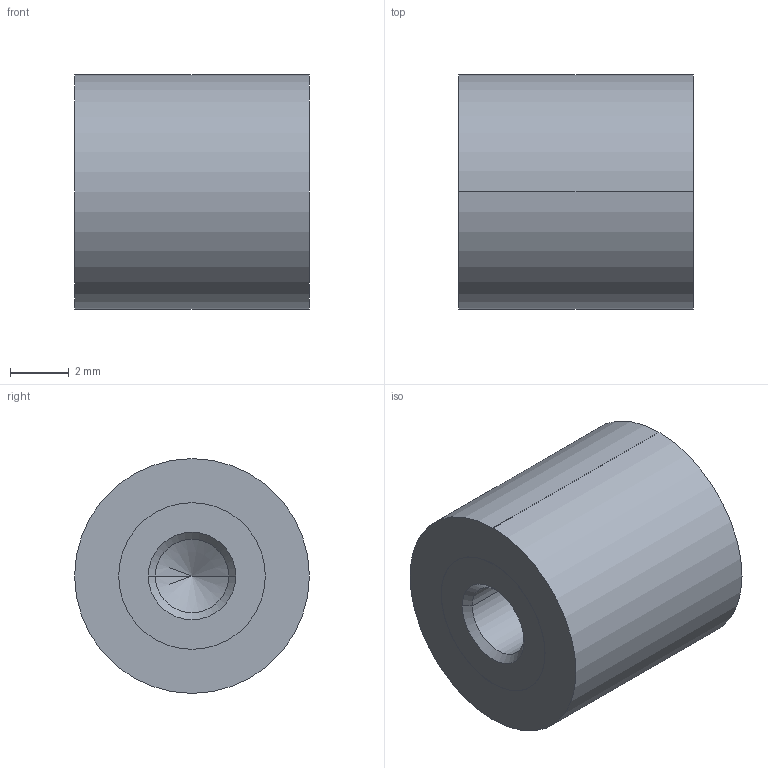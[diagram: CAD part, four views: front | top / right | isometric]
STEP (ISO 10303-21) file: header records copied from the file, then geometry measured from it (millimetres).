
FILE_DESCRIPTION (( 'STEP AP214' ), '1' );
FILE_NAME ('451-8-8-M3-EE-70.step', '2020-03-05T09:15:49', ( '' ), ( '' ), 'SwSTEP 2.0', 'SolidWorks 2019', '' );
FILE_SCHEMA (( 'AUTOMOTIVE_DESIGN' ));
Length unit declared in the file: millimetre
Products named in the file (1): 451-8-8-M3-EE-70
Bounding box: 8 x 8 x 8 mm (x, y, z)
Volume: 369.4 mm3; surface area: 348.5 mm2
Topology: 1 solids, 1 shells, 22 faces, 46 edges, 26 vertices
Faces by surface type: cylinder 10, cone 8, plane 4
Entity records: 684 total; most frequent: DIRECTION 112, CARTESIAN_POINT 91, ORIENTED_EDGE 84, AXIS2_PLACEMENT_3D 47, EDGE_CURVE 42, VERTEX_POINT 26, EDGE_LOOP 26, CIRCLE 24
